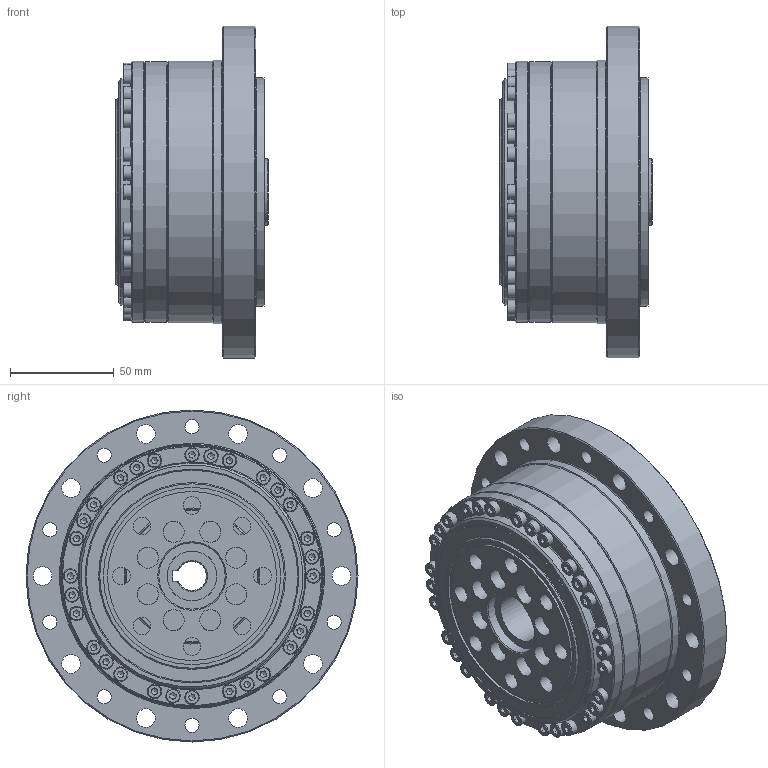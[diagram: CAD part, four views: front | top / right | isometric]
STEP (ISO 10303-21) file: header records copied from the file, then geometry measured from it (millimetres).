
FILE_DESCRIPTION (( 'STEP AP203' ), '1' );
FILE_NAME ('LCSG-40-XXX-C-II.STEP', '2025-01-20T02:08:31', ( '' ), ( '' ), 'SwSTEP 2.0', 'SolidWorks 2023', '' );
FILE_SCHEMA (( 'CONFIG_CONTROL_DESIGN' ));
Length unit declared in the file: metre
Products named in the file (1): LCSG-40-XXX-C-II
Bounding box: 73.5 x 160 x 160 mm (x, y, z)
Volume: 687164.8 mm3; surface area: 315752.9 mm2
Topology: 76 solids, 76 shells, 1314 faces, 3144 edges, 2005 vertices
Faces by surface type: plane 716, cylinder 333, cone 143, bspline 122
Full cylindrical faces by diameter (mm): 2.5 x2, 3.3 x31, 4 x30, 4.5 x50, 6.8 x10, 7 x30, 8.5 x8, 9 x10, 10.2 x8, 12 x8, 12.5 x16, 17 x8, 24 x2, 28 x2, 30.3 x1, 32 x3, 32.5 x2, 34 x1, 42 x2, 46 x1, 64 x1, 66 x3, 67 x2, 72 x2, 76 x1, 76.928 x2, 78.13 x1, 81.5 x1, 84 x1, 85.5 x1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
Entity records: 41592 total; most frequent: CARTESIAN_POINT 14231, DIRECTION 5666, ORIENTED_EDGE 4812, EDGE_CURVE 2406, AXIS2_PLACEMENT_3D 2279, EDGE_LOOP 2126, VERTEX_POINT 1798, FACE_OUTER_BOUND 1666
